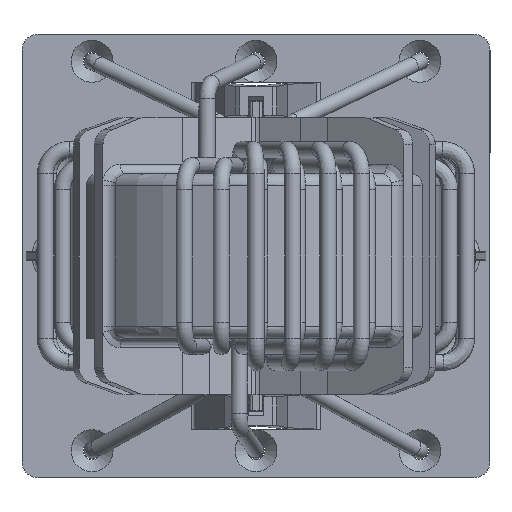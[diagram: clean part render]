
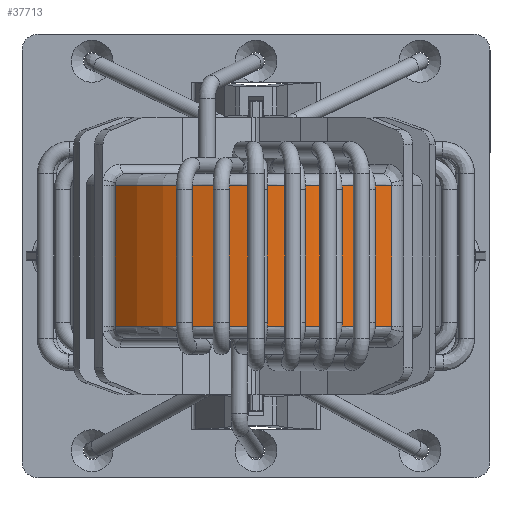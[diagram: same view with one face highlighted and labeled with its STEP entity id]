
A CAD part, left-side view. The second image highlights one B-rep face of the part: STEP entity #37713.
In plain terms, the highlighted cylindrical face has radius 23 mm (diameter 46 mm), a partial arc.
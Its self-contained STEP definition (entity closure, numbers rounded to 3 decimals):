
#5798=CARTESIAN_POINT('',(-15.695,-16.812,1.5));
#5799=VERTEX_POINT('',#5798);
#5807=CARTESIAN_POINT('',(-14.967,17.464,1.5));
#5808=VERTEX_POINT('',#5807);
#5809=CARTESIAN_POINT('',(0.,0.,1.5));
#5810=DIRECTION('',(0.,0.,-1.));
#5811=DIRECTION('',(-1.,0.021,0.));
#5812=AXIS2_PLACEMENT_3D('',#5809,#5810,#5811);
#5813=CIRCLE('',#5812,23.0);
#5814=EDGE_CURVE('',#5799,#5808,#5813,.T.);
#35421=CARTESIAN_POINT('',(-15.695,-16.812,18.9));
#35422=VERTEX_POINT('',#35421);
#35500=CARTESIAN_POINT('',(-15.695,-16.812,18.9));
#35501=DIRECTION('',(0.0,0.0,-1.0));
#35502=VECTOR('',#35501,17.4);
#35503=LINE('',#35500,#35502);
#35504=EDGE_CURVE('',#35422,#5799,#35503,.T.);
#37654=CARTESIAN_POINT('',(-14.967,17.464,18.9));
#37655=VERTEX_POINT('',#37654);
#37686=CARTESIAN_POINT('',(-14.967,17.464,1.5));
#37687=DIRECTION('',(0.0,0.0,1.0));
#37688=VECTOR('',#37687,17.4);
#37689=LINE('',#37686,#37688);
#37690=EDGE_CURVE('',#5808,#37655,#37689,.T.);
#37696=CARTESIAN_POINT('',(0.,0.,10.2));
#37697=DIRECTION('',(0.,0.,1.));
#37698=DIRECTION('',(-0.481,0.876,0.));
#37699=AXIS2_PLACEMENT_3D('',#37696,#37697,#37698);
#37700=CYLINDRICAL_SURFACE('',#37699,23.);
#37701=ORIENTED_EDGE('',*,*,#35504,.F.);
#37702=CARTESIAN_POINT('',(0.,0.,18.9));
#37703=DIRECTION('',(0.,0.,1.));
#37704=DIRECTION('',(-1.,0.021,0.));
#37705=AXIS2_PLACEMENT_3D('',#37702,#37703,#37704);
#37706=CIRCLE('',#37705,23.0);
#37707=EDGE_CURVE('',#37655,#35422,#37706,.T.);
#37708=ORIENTED_EDGE('',*,*,#37707,.F.);
#37709=ORIENTED_EDGE('',*,*,#37690,.F.);
#37710=ORIENTED_EDGE('',*,*,#5814,.F.);
#37711=EDGE_LOOP('',(#37701,#37708,#37709,#37710));
#37712=FACE_OUTER_BOUND('',#37711,.T.);
#37713=ADVANCED_FACE('',(#37712),#37700,.T.);
